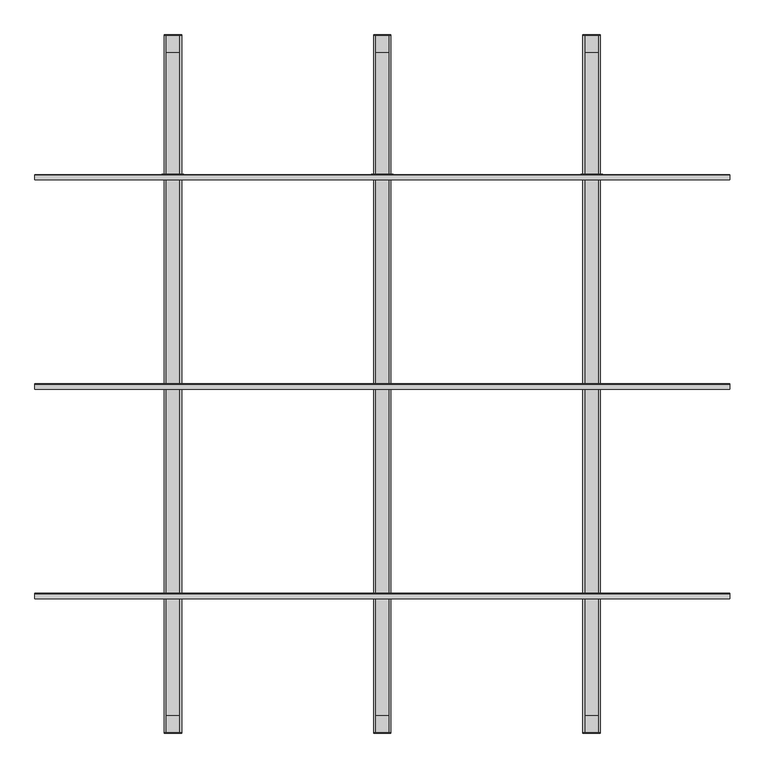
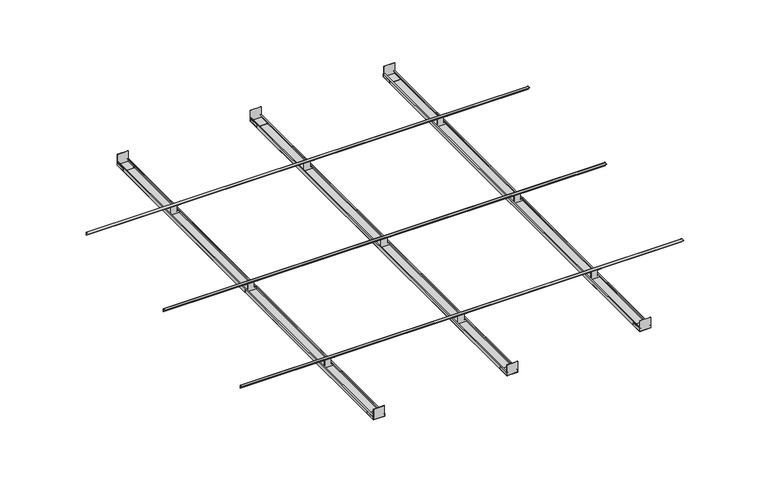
"""IFC4 building model written with IfcOpenShell, lengths in millimetres: proxy geometry, durlum_S5.4K-BR_RHOMBOS : durlum_S5.4K-BR_RHOMBOS."""

from ifc_helpers import new_model, si_unit, point, frame, frame_2d, origin, place, context, project, spatial, polyline, circle_curve, trimmed, segment, composite_curve, outline, extrude, source, transform, mapped, element, save


def generic_models_8bfca867(model_context):
    return source(origin(), model_context, "Body", "SweptSolid", [
        extrude(outline(polyline([(48.7946553, 1900.0), (48.7946553, 1998.75), (50.0446553, 1998.75), (50.0446553, 1900.0), (48.7946553, 1900.0)])), frame((0.0, 0.0, 2101.4976307), z_axis=(0.0, 0.0, 1.0), x_axis=(1.0, 0.0, 0.0)), (0.0, 0.0, 1.0), 22.9482224),
        extrude(outline(polyline([(-48.7946553, 1900.0), (-50.0446553, 1900.0), (-50.0446553, 1998.75), (-48.7946553, 1998.75), (-48.7946553, 1900.0)])), frame((0.0, 0.0, 2101.4976307), z_axis=(0.0, 0.0, 1.0), x_axis=(1.0, 0.0, 0.0)), (0.0, 0.0, 1.0), 22.9482224),
        extrude(outline(polyline([(2000.0, 2101.4976307), (1900.0, 2101.4976307), (1900.0, 2102.7476307), (1998.75, 2102.7476307), (1998.75, 2201.4976307), (2000.0, 2201.4976307), (2000.0, 2101.4976307)])), frame((-48.7946553, 0.0, 0.0), z_axis=(1.0, 0.0, 0.0), x_axis=(0.0, 1.0, 0.0)), (0.0, 0.0, 1.0), 97.5893106),
        extrude(outline(polyline([(-48.7946553, -1900.0), (-48.7946553, -1998.75), (-50.0446553, -1998.75), (-50.0446553, -1900.0), (-48.7946553, -1900.0)])), frame((0.0, 0.0, 2101.4981533), z_axis=(0.0, 0.0, 1.0), x_axis=(1.0, 0.0, 0.0)), (0.0, 0.0, 1.0), 22.9482224),
        extrude(outline(polyline([(48.7946553, -1900.0), (50.0446553, -1900.0), (50.0446553, -1998.75), (48.7946553, -1998.75), (48.7946553, -1900.0)])), frame((0.0, 0.0, 2101.4981533), z_axis=(0.0, 0.0, 1.0), x_axis=(1.0, 0.0, 0.0)), (0.0, 0.0, 1.0), 22.9482224),
        extrude(outline(polyline([(-2000.0, 2101.4981533), (-2000.0, 2201.4981533), (-1998.75, 2201.4981533), (-1998.75, 2102.7481533), (-1900.0, 2102.7481533), (-1900.0, 2101.4981533), (-2000.0, 2101.4981533)])), frame((-48.7946553, 0.0, 0.0), z_axis=(1.0, 0.0, 0.0), x_axis=(0.0, 1.0, 0.0)), (0.0, 0.0, 1.0), 97.5893106),
        extrude(outline(polyline([(1151.2053447, -1900.0), (1151.2053447, -1998.75), (1149.9553447, -1998.75), (1149.9553447, -1900.0), (1151.2053447, -1900.0)])), frame((0.0, 0.0, 2101.4963067), z_axis=(0.0, 0.0, 1.0), x_axis=(1.0, 0.0, 0.0)), (0.0, 0.0, 1.0), 22.9482224),
        extrude(outline(polyline([(1248.7946553, -1900.0), (1250.0446553, -1900.0), (1250.0446553, -1998.75), (1248.7946553, -1998.75), (1248.7946553, -1900.0)])), frame((0.0, 0.0, 2101.4963067), z_axis=(0.0, 0.0, 1.0), x_axis=(1.0, 0.0, 0.0)), (0.0, 0.0, 1.0), 22.9482224),
        extrude(outline(polyline([(-2000.0, 2101.4963067), (-2000.0, 2201.4963067), (-1998.75, 2201.4963067), (-1998.75, 2102.7463067), (-1900.0, 2102.7463067), (-1900.0, 2101.4963067), (-2000.0, 2101.4963067)])), frame((1151.2053447, 0.0, 0.0), z_axis=(1.0, 0.0, 0.0), x_axis=(0.0, 1.0, 0.0)), (0.0, 0.0, 1.0), 97.5893106),
        extrude(outline(polyline([(1248.7946553, 1900.0), (1248.7946553, 1998.75), (1250.0446553, 1998.75), (1250.0446553, 1900.0), (1248.7946553, 1900.0)])), frame((0.0, 0.0, 2101.4952614), z_axis=(0.0, 0.0, 1.0), x_axis=(1.0, 0.0, 0.0)), (0.0, 0.0, 1.0), 22.9482224),
        extrude(outline(polyline([(1151.2053447, 1900.0), (1149.9553447, 1900.0), (1149.9553447, 1998.75), (1151.2053447, 1998.75), (1151.2053447, 1900.0)])), frame((0.0, 0.0, 2101.4952614), z_axis=(0.0, 0.0, 1.0), x_axis=(1.0, 0.0, 0.0)), (0.0, 0.0, 1.0), 22.9482224),
        extrude(outline(polyline([(2000.0, 2101.4952614), (1900.0, 2101.4952614), (1900.0, 2102.7452614), (1998.75, 2102.7452614), (1998.75, 2201.4952614), (2000.0, 2201.4952614), (2000.0, 2101.4952614)])), frame((1151.2053447, 0.0, 0.0), z_axis=(1.0, 0.0, 0.0), x_axis=(0.0, 1.0, 0.0)), (0.0, 0.0, 1.0), 97.5893106),
        extrude(outline(polyline([(-1248.7946553, -1900.0), (-1248.7946553, -1998.75), (-1250.0446553, -1998.75), (-1250.0446553, -1900.0), (-1248.7946553, -1900.0)])), frame((0.0, 0.0, 2101.5), z_axis=(0.0, 0.0, 1.0), x_axis=(1.0, 0.0, 0.0)), (0.0, 0.0, 1.0), 22.9482224),
        extrude(outline(polyline([(-1151.2053447, -1900.0), (-1149.9553447, -1900.0), (-1149.9553447, -1998.75), (-1151.2053447, -1998.75), (-1151.2053447, -1900.0)])), frame((0.0, 0.0, 2101.5), z_axis=(0.0, 0.0, 1.0), x_axis=(1.0, 0.0, 0.0)), (0.0, 0.0, 1.0), 22.9482224),
        extrude(outline(polyline([(-2000.0, 2101.5), (-2000.0, 2201.5), (-1998.75, 2201.5), (-1998.75, 2102.75), (-1900.0, 2102.75), (-1900.0, 2101.5), (-2000.0, 2101.5)])), frame((-1248.7946553, 0.0, 0.0), z_axis=(1.0, 0.0, 0.0), x_axis=(0.0, 1.0, 0.0)), (0.0, 0.0, 1.0), 97.5893106),
        extrude(outline(polyline([(-1151.2053447, 1900.0), (-1151.2053447, 1998.75), (-1149.9553447, 1998.75), (-1149.9553447, 1900.0), (-1151.2053447, 1900.0)])), frame((0.0, 0.0, 2101.5), z_axis=(0.0, 0.0, 1.0), x_axis=(1.0, 0.0, 0.0)), (0.0, 0.0, 1.0), 22.9482224),
        extrude(outline(polyline([(-1248.7946553, 1900.0), (-1250.0446553, 1900.0), (-1250.0446553, 1998.75), (-1248.7946553, 1998.75), (-1248.7946553, 1900.0)])), frame((0.0, 0.0, 2101.5), z_axis=(0.0, 0.0, 1.0), x_axis=(1.0, 0.0, 0.0)), (0.0, 0.0, 1.0), 22.9482224),
        extrude(outline(polyline([(2000.0, 2101.5), (1900.0, 2101.5), (1900.0, 2102.75), (1998.75, 2102.75), (1998.75, 2201.5), (2000.0, 2201.5), (2000.0, 2101.5)])), frame((-1248.7946553, 0.0, 0.0), z_axis=(1.0, 0.0, 0.0), x_axis=(0.0, 1.0, 0.0)), (0.0, 0.0, 1.0), 97.5893106),
        extrude(outline(polyline([(2125.0, 48.2809886), (2125.0, 46.8282044), (2120.9590465, 46.8282044), (2120.9590465, 28.0249317), (2172.9865783, 28.0249317), (2172.9865783, 62.346391), (2200.0, 62.346391), (2200.0, -62.346391), (2172.9865783, -62.346391), (2172.9865783, -28.0249317), (2120.9590465, -28.0249317), (2120.9590465, -46.8282044), (2125.0, -46.8282044), (2125.0, -48.2809886), (2100.0, -48.2809886), (2100.0, 48.2809886), (2125.0, 48.2809886)])), frame((0.0, 0.0, 0.0), z_axis=(0.0, 1.0, 0.0), x_axis=(0.0, 0.0, 1.0)), (0.0, 0.0, 1.0), 1.9953756),
        extrude(outline(polyline([(2125.0, -1151.7190114), (2125.0, -1153.1717956), (2120.9590465, -1153.1717956), (2120.9590465, -1171.9750683), (2172.9865783, -1171.9750683), (2172.9865783, -1137.653609), (2200.0, -1137.653609), (2200.0, -1262.346391), (2172.9865783, -1262.346391), (2172.9865783, -1228.0249317), (2120.9590465, -1228.0249317), (2120.9590465, -1246.8282044), (2125.0, -1246.8282044), (2125.0, -1248.2809886), (2100.0, -1248.2809886), (2100.0, -1151.7190114), (2125.0, -1151.7190114)])), frame((0.0, 0.0, 0.0), z_axis=(0.0, 1.0, 0.0), x_axis=(0.0, 0.0, 1.0)), (0.0, 0.0, 1.0), 1.9953756),
        extrude(outline(polyline([(2125.0, 1248.2809886), (2125.0, 1246.8282044), (2120.9590465, 1246.8282044), (2120.9590465, 1228.0249317), (2172.9865783, 1228.0249317), (2172.9865783, 1262.346391), (2200.0, 1262.346391), (2200.0, 1137.653609), (2172.9865783, 1137.653609), (2172.9865783, 1171.9750683), (2120.9590465, 1171.9750683), (2120.9590465, 1153.1717956), (2125.0, 1153.1717956), (2125.0, 1151.7190114), (2100.0, 1151.7190114), (2100.0, 1248.2809886), (2125.0, 1248.2809886)])), frame((0.0, 0.0, 0.0), z_axis=(0.0, 1.0, 0.0), x_axis=(0.0, 0.0, 1.0)), (0.0, 0.0, 1.0), 1.9953756),
        extrude(outline(composite_curve([segment(polyline([(-2.0, 2176.1), (-2.0, 2202.0)]), True, "CONTINUOUS"), segment(trimmed(circle_curve(frame_2d((-4.0, 2202.0)), 2.0), [point((-2.0, 2202.0))], [point((-4.0, 2204.0))], True, "CARTESIAN"), True, "CONTINUOUS"), segment(polyline([(-4.0, 2204.0), (-29.9, 2204.0), (-29.9, 2206.0), (-4.0, 2206.0)]), True, "CONTINUOUS"), segment(trimmed(circle_curve(frame_2d((-4.0, 2202.0)), 4.0), [point((-4.0, 2206.0))], [point((0.0, 2202.0))], False, "CARTESIAN"), True, "CONTINUOUS"), segment(polyline([(0.0, 2202.0), (0.0, 2176.1), (-2.0, 2176.1)]), True, "CONTINUOUS")], self_intersect=False)), frame((-1990.0, 0.0, 0.0), z_axis=(1.0, 0.0, 0.0), x_axis=(0.0, 1.0, 0.0)), (0.0, 0.0, 1.0), 3980.0),
        extrude(outline(polyline([(2125.0, 48.2809886), (2125.0, 46.8282044), (2120.9590465, 46.8282044), (2120.9590465, 28.0249317), (2172.9865783, 28.0249317), (2172.9865783, 62.346391), (2200.0, 62.346391), (2200.0, -62.346391), (2172.9865783, -62.346391), (2172.9865783, -28.0249317), (2120.9590465, -28.0249317), (2120.9590465, -46.8282044), (2125.0, -46.8282044), (2125.0, -48.2809886), (2100.0, -48.2809886), (2100.0, 48.2809886), (2125.0, 48.2809886)])), frame((0.0, -1200.0, 0.0), z_axis=(0.0, 1.0, 0.0), x_axis=(0.0, 0.0, 1.0)), (0.0, 0.0, 1.0), 1.9953756),
        extrude(outline(polyline([(2125.0, -1151.7190114), (2125.0, -1153.1717956), (2120.9590465, -1153.1717956), (2120.9590465, -1171.9750683), (2172.9865783, -1171.9750683), (2172.9865783, -1137.653609), (2200.0, -1137.653609), (2200.0, -1262.346391), (2172.9865783, -1262.346391), (2172.9865783, -1228.0249317), (2120.9590465, -1228.0249317), (2120.9590465, -1246.8282044), (2125.0, -1246.8282044), (2125.0, -1248.2809886), (2100.0, -1248.2809886), (2100.0, -1151.7190114), (2125.0, -1151.7190114)])), frame((0.0, -1200.0, 0.0), z_axis=(0.0, 1.0, 0.0), x_axis=(0.0, 0.0, 1.0)), (0.0, 0.0, 1.0), 1.9953756),
        extrude(outline(polyline([(2125.0, 1248.2809886), (2125.0, 1246.8282044), (2120.9590465, 1246.8282044), (2120.9590465, 1228.0249317), (2172.9865783, 1228.0249317), (2172.9865783, 1262.346391), (2200.0, 1262.346391), (2200.0, 1137.653609), (2172.9865783, 1137.653609), (2172.9865783, 1171.9750683), (2120.9590465, 1171.9750683), (2120.9590465, 1153.1717956), (2125.0, 1153.1717956), (2125.0, 1151.7190114), (2100.0, 1151.7190114), (2100.0, 1248.2809886), (2125.0, 1248.2809886)])), frame((0.0, -1200.0, 0.0), z_axis=(0.0, 1.0, 0.0), x_axis=(0.0, 0.0, 1.0)), (0.0, 0.0, 1.0), 1.9953756),
        extrude(outline(composite_curve([segment(polyline([(-1202.0, 2176.1), (-1202.0, 2202.0)]), True, "CONTINUOUS"), segment(trimmed(circle_curve(frame_2d((-1204.0, 2202.0)), 2.0), [point((-1202.0, 2202.0))], [point((-1204.0, 2204.0))], True, "CARTESIAN"), True, "CONTINUOUS"), segment(polyline([(-1204.0, 2204.0), (-1229.9, 2204.0), (-1229.9, 2206.0), (-1204.0, 2206.0)]), True, "CONTINUOUS"), segment(trimmed(circle_curve(frame_2d((-1204.0, 2202.0)), 4.0), [point((-1204.0, 2206.0))], [point((-1200.0, 2202.0))], False, "CARTESIAN"), True, "CONTINUOUS"), segment(polyline([(-1200.0, 2202.0), (-1200.0, 2176.1), (-1202.0, 2176.1)]), True, "CONTINUOUS")], self_intersect=False)), frame((-1990.0, 0.0, 0.0), z_axis=(1.0, 0.0, 0.0), x_axis=(0.0, 1.0, 0.0)), (0.0, 0.0, 1.0), 3980.0),
        extrude(outline(polyline([(2130.0, -50.0), (2100.0, -50.0), (2100.0, 50.0), (2130.0, 50.0), (2130.0, 40.0), (2129.0, 40.0), (2129.0, 49.0), (2101.0, 49.0), (2101.0, -49.0), (2129.0, -49.0), (2129.0, -40.0), (2130.0, -40.0), (2130.0, -50.0)])), frame((0.0, -2000.0, 0.0), z_axis=(0.0, 1.0, 0.0), x_axis=(0.0, 0.0, 1.0)), (0.0, 0.0, 1.0), 4000.0),
        extrude(outline(polyline([(2130.0, -1250.0), (2100.0, -1250.0), (2100.0, -1150.0), (2130.0, -1150.0), (2130.0, -1160.0), (2129.0, -1160.0), (2129.0, -1151.0), (2101.0, -1151.0), (2101.0, -1249.0), (2129.0, -1249.0), (2129.0, -1240.0), (2130.0, -1240.0), (2130.0, -1250.0)])), frame((0.0, -2000.0, 0.0), z_axis=(0.0, 1.0, 0.0), x_axis=(0.0, 0.0, 1.0)), (0.0, 0.0, 1.0), 4000.0),
        extrude(outline(polyline([(2130.0, 1150.0), (2100.0, 1150.0), (2100.0, 1250.0), (2130.0, 1250.0), (2130.0, 1240.0), (2129.0, 1240.0), (2129.0, 1249.0), (2101.0, 1249.0), (2101.0, 1151.0), (2129.0, 1151.0), (2129.0, 1160.0), (2130.0, 1160.0), (2130.0, 1150.0)])), frame((0.0, -2000.0, 0.0), z_axis=(0.0, 1.0, 0.0), x_axis=(0.0, 0.0, 1.0)), (0.0, 0.0, 1.0), 4000.0),
        extrude(outline(polyline([(2125.0, 48.2809886), (2125.0, 46.8282044), (2120.9590465, 46.8282044), (2120.9590465, 28.0249317), (2172.9865783, 28.0249317), (2172.9865783, 62.346391), (2200.0, 62.346391), (2200.0, -62.346391), (2172.9865783, -62.346391), (2172.9865783, -28.0249317), (2120.9590465, -28.0249317), (2120.9590465, -46.8282044), (2125.0, -46.8282044), (2125.0, -48.2809886), (2100.0, -48.2809886), (2100.0, 48.2809886), (2125.0, 48.2809886)])), frame((0.0, 1200.0, 0.0), z_axis=(0.0, 1.0, 0.0), x_axis=(0.0, 0.0, 1.0)), (0.0, 0.0, 1.0), 1.9953756),
        extrude(outline(polyline([(2125.0, -1151.7190114), (2125.0, -1153.1717956), (2120.9590465, -1153.1717956), (2120.9590465, -1171.9750683), (2172.9865783, -1171.9750683), (2172.9865783, -1137.653609), (2200.0, -1137.653609), (2200.0, -1262.346391), (2172.9865783, -1262.346391), (2172.9865783, -1228.0249317), (2120.9590465, -1228.0249317), (2120.9590465, -1246.8282044), (2125.0, -1246.8282044), (2125.0, -1248.2809886), (2100.0, -1248.2809886), (2100.0, -1151.7190114), (2125.0, -1151.7190114)])), frame((0.0, 1200.0, 0.0), z_axis=(0.0, 1.0, 0.0), x_axis=(0.0, 0.0, 1.0)), (0.0, 0.0, 1.0), 1.9953756),
        extrude(outline(polyline([(2125.0, 1248.2809886), (2125.0, 1246.8282044), (2120.9590465, 1246.8282044), (2120.9590465, 1228.0249317), (2172.9865783, 1228.0249317), (2172.9865783, 1262.346391), (2200.0, 1262.346391), (2200.0, 1137.653609), (2172.9865783, 1137.653609), (2172.9865783, 1171.9750683), (2120.9590465, 1171.9750683), (2120.9590465, 1153.1717956), (2125.0, 1153.1717956), (2125.0, 1151.7190114), (2100.0, 1151.7190114), (2100.0, 1248.2809886), (2125.0, 1248.2809886)])), frame((0.0, 1200.0, 0.0), z_axis=(0.0, 1.0, 0.0), x_axis=(0.0, 0.0, 1.0)), (0.0, 0.0, 1.0), 1.9953756),
        extrude(outline(composite_curve([segment(polyline([(1198.0, 2176.1), (1198.0, 2202.0)]), True, "CONTINUOUS"), segment(trimmed(circle_curve(frame_2d((1196.0, 2202.0)), 2.0), [point((1198.0, 2202.0))], [point((1196.0, 2204.0))], True, "CARTESIAN"), True, "CONTINUOUS"), segment(polyline([(1196.0, 2204.0), (1170.1, 2204.0), (1170.1, 2206.0), (1196.0, 2206.0)]), True, "CONTINUOUS"), segment(trimmed(circle_curve(frame_2d((1196.0, 2202.0)), 4.0), [point((1196.0, 2206.0))], [point((1200.0, 2202.0))], False, "CARTESIAN"), True, "CONTINUOUS"), segment(polyline([(1200.0, 2202.0), (1200.0, 2176.1), (1198.0, 2176.1)]), True, "CONTINUOUS")], self_intersect=False)), frame((-1990.0, 0.0, 0.0), z_axis=(1.0, 0.0, 0.0), x_axis=(0.0, 1.0, 0.0)), (0.0, 0.0, 1.0), 3980.0),
    ])


if __name__ == "__main__":
    model = new_model("IFC4")
    model_context = context("Model", 3, world=origin())
    ifc_project = project(units=[si_unit("LENGTHUNIT", "METRE", prefix="MILLI")], contexts=[model_context])
    site = spatial("IfcSite", under=ifc_project)
    building = spatial("IfcBuilding", under=site)
    placement = place(None, origin())
    generic_models_shape = generic_models_8bfca867(model_context)
    element("IfcBuildingElementProxy", 1, Name="durlum_S5.4K-BR_RHOMBOS : durlum_S5.4K-BR_RHOMBOS", ObjectType="durlum_S5.4K-BR_RHOMBOS : durlum_S5.4K-BR_RHOMBOS", at=placement, inside=building, context=model_context, shape_type="MappedRepresentation", body=[
        mapped(generic_models_shape, transform((0.0, 0.0, 0.0), x_axis=(1.0, 0.0, 0.0), y_axis=(0.0, 1.0, 0.0), z_axis=(0.0, 0.0, 1.0))),
    ])
    save(model, "model.ifc")
